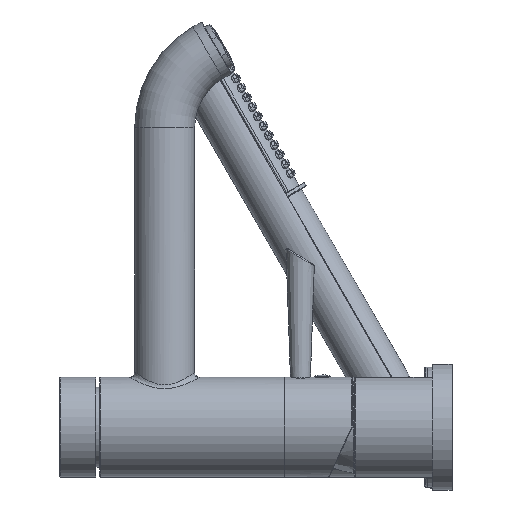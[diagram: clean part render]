
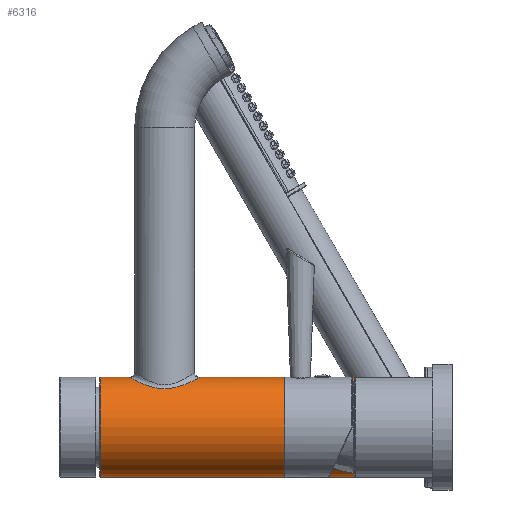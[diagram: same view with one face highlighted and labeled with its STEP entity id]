
A CAD part, left-side view. The second image highlights one B-rep face of the part: STEP entity #6316.
In plain terms, the highlighted cylindrical face has radius 25 mm (diameter 50 mm), a full revolution.
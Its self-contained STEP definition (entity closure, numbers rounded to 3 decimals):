
#193=FACE_BOUND('',#1380,.T.);
#194=FACE_BOUND('',#1381,.T.);
#720=CYLINDRICAL_SURFACE('',#6798,25.);
#958=FACE_OUTER_BOUND('',#1379,.T.);
#1379=EDGE_LOOP('',(#4481));
#1380=EDGE_LOOP('',(#4482));
#1381=EDGE_LOOP('',(#4483));
#1908=CIRCLE('',#6799,25.);
#1909=CIRCLE('',#6800,25.);
#2147=B_SPLINE_CURVE_WITH_KNOTS('',3,(#9822,#9823,#9824,#9825,#9826,#9827,
#9828,#9829,#9830,#9831,#9832,#9833,#9834,#9835,#9836,#9837,#9838,#9839,
#9840,#9841,#9842,#9843,#9844,#9845),.UNSPECIFIED.,.T.,.F.,(4,1,1,1,1,1,
1,1,1,1,1,1,1,1,1,1,1,1,1,1,1,4),(0.,0.333,
0.666,1.332,1.999,2.332,2.665,
3.109,3.553,3.997,4.441,4.885,
5.329,5.996,6.662,6.995,7.328,
7.994,8.327,8.66,8.994,9.327),
 .UNSPECIFIED.);
#2674=VERTEX_POINT('',#9820);
#2675=VERTEX_POINT('',#9871);
#2676=VERTEX_POINT('',#9873);
#3374=EDGE_CURVE('',#2674,#2674,#2147,.T.);
#3376=EDGE_CURVE('',#2675,#2675,#1908,.T.);
#3377=EDGE_CURVE('',#2676,#2676,#1909,.T.);
#4481=ORIENTED_EDGE('',*,*,#3376,.F.);
#4482=ORIENTED_EDGE('',*,*,#3377,.F.);
#4483=ORIENTED_EDGE('',*,*,#3374,.F.);
#6316=ADVANCED_FACE('',(#958,#193,#194),#720,.T.);
#6798=AXIS2_PLACEMENT_3D('',#9870,#7615,#7616);
#6799=AXIS2_PLACEMENT_3D('',#9872,#7617,#7618);
#6800=AXIS2_PLACEMENT_3D('',#9874,#7619,#7620);
#7615=DIRECTION('center_axis',(0.,1.,0.));
#7616=DIRECTION('ref_axis',(-1.,0.,0.));
#7617=DIRECTION('center_axis',(0.,1.,0.));
#7618=DIRECTION('ref_axis',(-1.,0.,0.));
#7619=DIRECTION('center_axis',(0.,-1.,0.));
#7620=DIRECTION('ref_axis',(1.,0.,0.));
#9820=CARTESIAN_POINT('',(15.909,144.,19.285));
#9822=CARTESIAN_POINT('Ctrl Pts',(15.91,144.,19.284));
#9823=CARTESIAN_POINT('Ctrl Pts',(15.909,145.343,19.284));
#9824=CARTESIAN_POINT('Ctrl Pts',(15.622,148.055,19.528));
#9825=CARTESIAN_POINT('Ctrl Pts',(13.99,152.996,20.779));
#9826=CARTESIAN_POINT('Ctrl Pts',(10.353,158.025,23.03));
#9827=CARTESIAN_POINT('Ctrl Pts',(4.909,161.029,24.727));
#9828=CARTESIAN_POINT('Ctrl Pts',(-0.008,161.657,
25.091));
#9829=CARTESIAN_POINT('Ctrl Pts',(-4.097,161.13,24.785));
#9830=CARTESIAN_POINT('Ctrl Pts',(-8.213,159.285,23.745));
#9831=CARTESIAN_POINT('Ctrl Pts',(-11.842,156.048,22.113));
#9832=CARTESIAN_POINT('Ctrl Pts',(-14.49,151.817,20.428));
#9833=CARTESIAN_POINT('Ctrl Pts',(-15.97,146.745,19.238));
#9834=CARTESIAN_POINT('Ctrl Pts',(-15.968,141.226,19.238));
#9835=CARTESIAN_POINT('Ctrl Pts',(-14.23,135.322,20.634));
#9836=CARTESIAN_POINT('Ctrl Pts',(-10.333,129.965,23.034));
#9837=CARTESIAN_POINT('Ctrl Pts',(-4.898,126.965,24.73));
#9838=CARTESIAN_POINT('Ctrl Pts',(0.018,126.343,25.091));
#9839=CARTESIAN_POINT('Ctrl Pts',(4.928,126.979,24.723));
#9840=CARTESIAN_POINT('Ctrl Pts',(9.283,129.387,23.361));
#9841=CARTESIAN_POINT('Ctrl Pts',(12.531,132.997,21.679));
#9842=CARTESIAN_POINT('Ctrl Pts',(14.418,136.267,20.455));
#9843=CARTESIAN_POINT('Ctrl Pts',(15.62,139.964,19.527));
#9844=CARTESIAN_POINT('Ctrl Pts',(15.91,142.657,19.284));
#9845=CARTESIAN_POINT('Ctrl Pts',(15.91,144.,19.284));
#9870=CARTESIAN_POINT('Origin',(0.,4.5,
0.));
#9871=CARTESIAN_POINT('',(25.,176.25,0.));
#9872=CARTESIAN_POINT('Origin',(0.,176.25,0.));
#9873=CARTESIAN_POINT('',(-25.,12.75,0.));
#9874=CARTESIAN_POINT('Origin',(0.,12.75,
0.));
